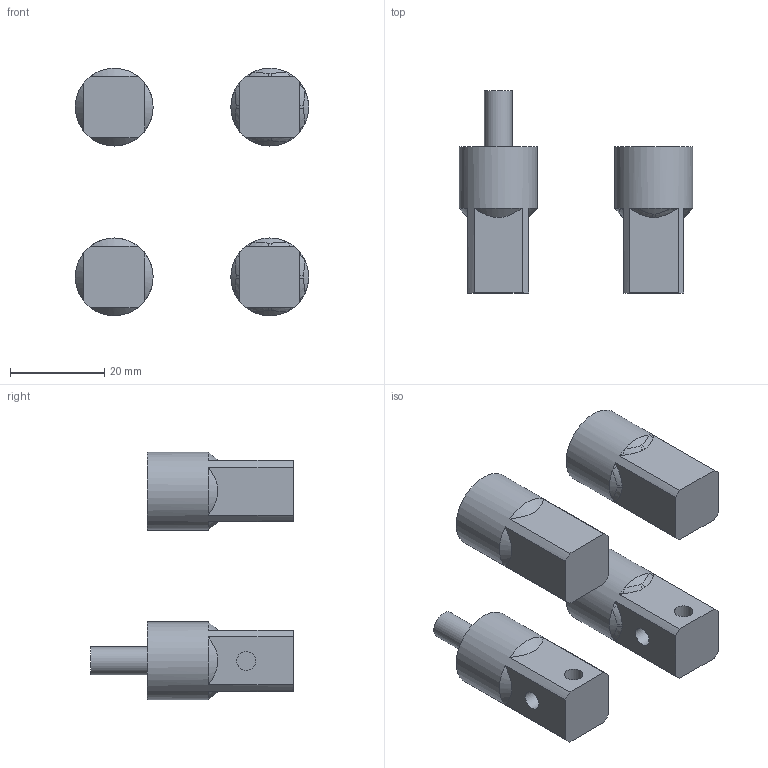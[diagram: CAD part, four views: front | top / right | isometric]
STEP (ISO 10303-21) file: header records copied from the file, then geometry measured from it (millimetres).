
FILE_DESCRIPTION(/* description */ (''),/* implementation_level */ '2;1');
FILE_NAME(/* name */ 'Z:/2.ДОКУМЕНТЫ/3D/CARS/насадка-адаптер под съемную голову балонного ключа для шуруповерта/19mmhex-shurupovert_adapter v3.step',/* time_stamp */ '2022-04-28T11:48:33+03:00',/* author */ (''),/* organization */ (''),/* preprocessor_version */ 'ST-DEVELOPER v18.1',/* originating_system */ 'Autodesk Translation Framework v10.14.0.1471',/* authorisation */ '');
FILE_SCHEMA (('AUTOMOTIVE_DESIGN { 1 0 10303 214 3 1 1 }'));
Length unit declared in the file: millimetre
Products named in the file (1): 19mmhex-shurupovert_adapter
Bounding box: 49.5 x 43 x 52.5 mm (x, y, z)
Volume: 21448.9 mm3; surface area: 10207.7 mm2
Topology: 5 solids, 5 shells, 151 faces, 371 edges, 226 vertices
Faces by surface type: bspline 72, plane 46, cylinder 17, cone 16
Full cylindrical faces by diameter (mm): 4 x8, 5.8 x4, 5.884 x1, 16.5 x4
Entity records: 6108 total; most frequent: CARTESIAN_POINT 2969, ORIENTED_EDGE 710, DIRECTION 549, EDGE_CURVE 355, AXIS2_PLACEMENT_3D 234, VERTEX_POINT 226, EDGE_LOOP 163, CIRCLE 154
